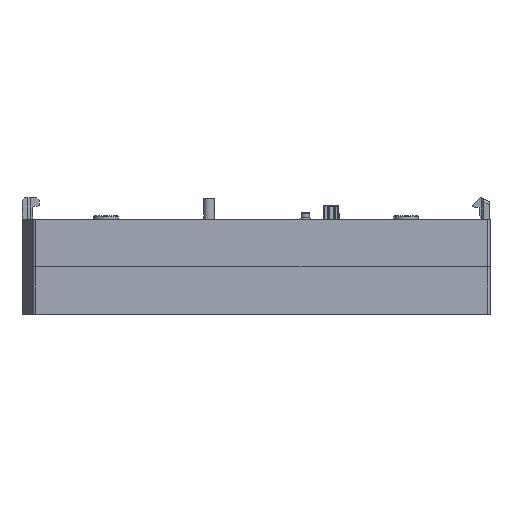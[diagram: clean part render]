
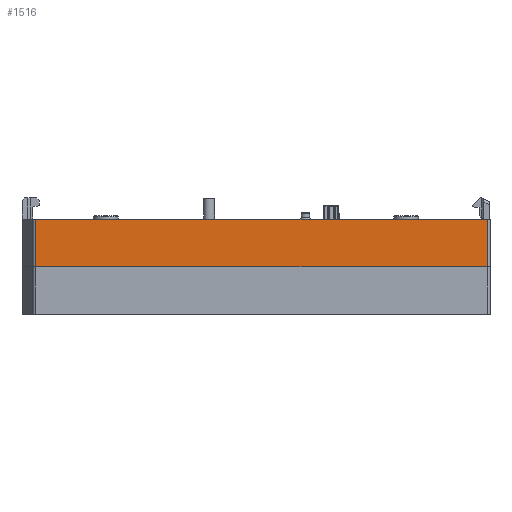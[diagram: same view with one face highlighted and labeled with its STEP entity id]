
A CAD part, front view. The second image highlights one B-rep face of the part: STEP entity #1516.
In plain terms, the highlighted planar face has unit normal (0, -1, 0).
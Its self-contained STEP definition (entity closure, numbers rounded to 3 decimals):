
#1454 = EDGE_LOOP ( 'NONE', ( #1455, #1535, #1531, #1533 ) ) ;
#1455 = ORIENTED_EDGE ( 'NONE', *, *, #67885, .T. ) ;
#1456 = VERTEX_POINT ( 'NONE', #80938 ) ;
#1516 = ADVANCED_FACE ( 'NONE', ( #80922 ), #80871, .F. ) ;
#1518 = EDGE_CURVE ( 'NONE', #1519, #67889, #80866, .T. ) ;
#1519 = VERTEX_POINT ( 'NONE', #80862 ) ;
#1531 = ORIENTED_EDGE ( 'NONE', *, *, #1532, .F. ) ;
#1532 = EDGE_CURVE ( 'NONE', #1519, #1456, #81675, .T. ) ;
#1533 = ORIENTED_EDGE ( 'NONE', *, *, #1518, .T. ) ;
#1535 = ORIENTED_EDGE ( 'NONE', *, *, #1536, .F. ) ;
#1536 = EDGE_CURVE ( 'NONE', #1456, #67577, #81513, .T. ) ;
#67577 = VERTEX_POINT ( 'NONE', #80997 ) ;
#67885 = EDGE_CURVE ( 'NONE', #67889, #67577, #87044, .T. ) ;
#67889 = VERTEX_POINT ( 'NONE', #87040 ) ;
#80862 = CARTESIAN_POINT ( 'NONE',  ( 16.563, 47.416, 0. ) ) ;
#80863 = DIRECTION ( 'NONE',  ( 0., 0., 1. ) ) ;
#80864 = VECTOR ( 'NONE', #80863, 1000. ) ;
#80865 = CARTESIAN_POINT ( 'NONE',  ( 16.563, 47.416, 7.3 ) ) ;
#80866 = LINE ( 'NONE', #80865, #80864 ) ;
#80867 = DIRECTION ( 'NONE',  ( 0., 0., -1. ) ) ;
#80868 = DIRECTION ( 'NONE',  ( 0., 1., 0. ) ) ;
#80869 = CARTESIAN_POINT ( 'NONE',  ( 16.563, 47.416, 7.3 ) ) ;
#80870 = AXIS2_PLACEMENT_3D ( 'NONE', #80869, #80868, #80867 ) ;
#80871 = PLANE ( 'NONE',  #80870 ) ;
#80922 = FACE_OUTER_BOUND ( 'NONE', #1454, .T. ) ;
#80938 = CARTESIAN_POINT ( 'NONE',  ( -66.437, 47.416, 0. ) ) ;
#80997 = CARTESIAN_POINT ( 'NONE',  ( -66.437, 47.416, 8.75 ) ) ;
#81513 = LINE ( 'NONE', #81578, #81577 ) ;
#81555 = DIRECTION ( 'NONE',  ( -1., 0., 0. ) ) ;
#81556 = VECTOR ( 'NONE', #81555, 1000. ) ;
#81576 = DIRECTION ( 'NONE',  ( 0., 0., 1. ) ) ;
#81577 = VECTOR ( 'NONE', #81576, 1000. ) ;
#81578 = CARTESIAN_POINT ( 'NONE',  ( -66.437, 47.416, 7.3 ) ) ;
#81674 = CARTESIAN_POINT ( 'NONE',  ( 16.563, 47.416, 0. ) ) ;
#81675 = LINE ( 'NONE', #81674, #81556 ) ;
#87040 = CARTESIAN_POINT ( 'NONE',  ( 16.563, 47.416, 8.75 ) ) ;
#87041 = DIRECTION ( 'NONE',  ( -1., 0., 0. ) ) ;
#87042 = VECTOR ( 'NONE', #87041, 1000. ) ;
#87043 = CARTESIAN_POINT ( 'NONE',  ( 16.563, 47.416, 8.75 ) ) ;
#87044 = LINE ( 'NONE', #87043, #87042 ) ;
